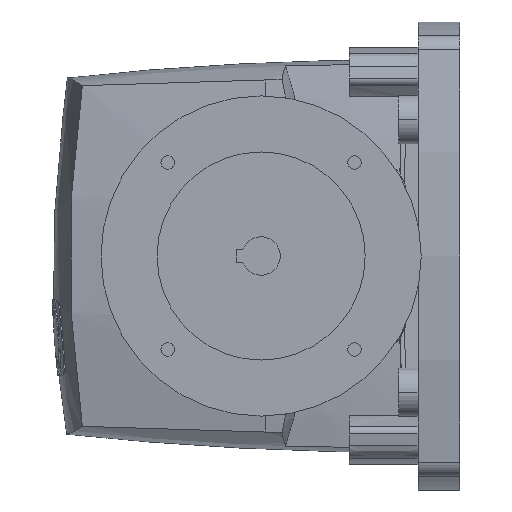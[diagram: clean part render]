
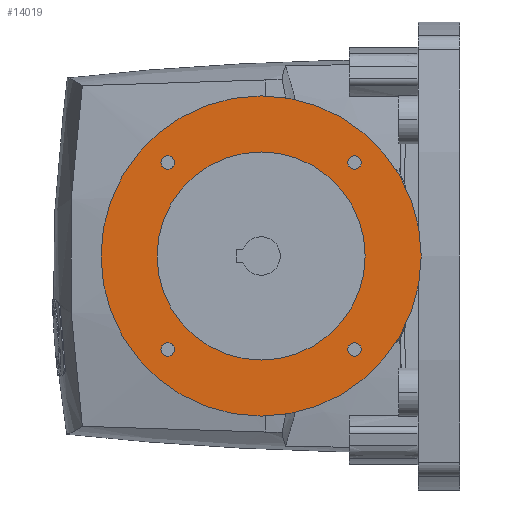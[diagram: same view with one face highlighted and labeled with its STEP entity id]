
A CAD part, left-side view. The second image highlights one B-rep face of the part: STEP entity #14019.
In plain terms, the highlighted planar face has unit normal (-1, 0, 0).
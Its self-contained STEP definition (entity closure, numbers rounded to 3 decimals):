
#4341=CARTESIAN_POINT('',(-168.,124.,0.));
#4342=DIRECTION('',(-1.,0.,0.));
#4343=DIRECTION('',(0.,1.,0.));
#4344=AXIS2_PLACEMENT_3D('',#4341,#4342,#4343);
#4346=CARTESIAN_POINT('',(-168.,124.,0.));
#4347=DIRECTION('',(-1.,0.,0.));
#4348=DIRECTION('',(0.,-1.,0.));
#4349=AXIS2_PLACEMENT_3D('',#4346,#4347,#4348);
#4351=CARTESIAN_POINT('',(-168.,124.,0.));
#4352=DIRECTION('',(-1.,0.,0.));
#4353=DIRECTION('',(0.,-1.,0.));
#4354=AXIS2_PLACEMENT_3D('',#4351,#4352,#4353);
#4356=CARTESIAN_POINT('',(-168.,124.,0.));
#4357=DIRECTION('',(-1.,0.,0.));
#4358=DIRECTION('',(0.,1.,0.));
#4359=AXIS2_PLACEMENT_3D('',#4356,#4357,#4358);
#4361=CARTESIAN_POINT('',(-168.,65.664,58.336));
#4362=DIRECTION('',(-1.,0.,0.));
#4363=DIRECTION('',(0.,-1.,0.));
#4364=AXIS2_PLACEMENT_3D('',#4361,#4362,#4363);
#4366=CARTESIAN_POINT('',(-168.,65.664,58.336));
#4367=DIRECTION('',(-1.,0.,0.));
#4368=DIRECTION('',(0.,1.,0.));
#4369=AXIS2_PLACEMENT_3D('',#4366,#4367,#4368);
#4371=CARTESIAN_POINT('',(-168.,182.336,58.336));
#4372=DIRECTION('',(-1.,0.,0.));
#4373=DIRECTION('',(0.,-1.,0.));
#4374=AXIS2_PLACEMENT_3D('',#4371,#4372,#4373);
#4376=CARTESIAN_POINT('',(-168.,182.336,58.336));
#4377=DIRECTION('',(-1.,0.,0.));
#4378=DIRECTION('',(0.,1.,0.));
#4379=AXIS2_PLACEMENT_3D('',#4376,#4377,#4378);
#4381=CARTESIAN_POINT('',(-168.,182.336,-58.336));
#4382=DIRECTION('',(-1.,0.,0.));
#4383=DIRECTION('',(0.,-1.,0.));
#4384=AXIS2_PLACEMENT_3D('',#4381,#4382,#4383);
#4386=CARTESIAN_POINT('',(-168.,182.336,-58.336));
#4387=DIRECTION('',(-1.,0.,0.));
#4388=DIRECTION('',(0.,1.,0.));
#4389=AXIS2_PLACEMENT_3D('',#4386,#4387,#4388);
#4391=CARTESIAN_POINT('',(-168.,65.664,-58.336));
#4392=DIRECTION('',(-1.,0.,0.));
#4393=DIRECTION('',(0.,-1.,0.));
#4394=AXIS2_PLACEMENT_3D('',#4391,#4392,#4393);
#4396=CARTESIAN_POINT('',(-168.,65.664,-58.336));
#4397=DIRECTION('',(-1.,0.,0.));
#4398=DIRECTION('',(0.,1.,0.));
#4399=AXIS2_PLACEMENT_3D('',#4396,#4397,#4398);
#8557=CARTESIAN_POINT('',(-168.,224.,0.));
#8558=CARTESIAN_POINT('',(-168.,24.,0.));
#8559=VERTEX_POINT('',#8557);
#8560=VERTEX_POINT('',#8558);
#8561=CARTESIAN_POINT('',(-168.,59.,0.));
#8562=CARTESIAN_POINT('',(-168.,189.,0.));
#8563=VERTEX_POINT('',#8561);
#8564=VERTEX_POINT('',#8562);
#8581=CARTESIAN_POINT('',(-168.,61.414,58.336));
#8582=CARTESIAN_POINT('',(-168.,69.914,58.336));
#8583=VERTEX_POINT('',#8581);
#8584=VERTEX_POINT('',#8582);
#8585=CARTESIAN_POINT('',(-168.,178.086,58.336));
#8586=CARTESIAN_POINT('',(-168.,186.586,58.336));
#8587=VERTEX_POINT('',#8585);
#8588=VERTEX_POINT('',#8586);
#8589=CARTESIAN_POINT('',(-168.,178.086,-58.336));
#8590=CARTESIAN_POINT('',(-168.,186.586,-58.336));
#8591=VERTEX_POINT('',#8589);
#8592=VERTEX_POINT('',#8590);
#8593=CARTESIAN_POINT('',(-168.,61.414,-58.336));
#8594=CARTESIAN_POINT('',(-168.,69.914,-58.336));
#8595=VERTEX_POINT('',#8593);
#8596=VERTEX_POINT('',#8594);
#13980=CARTESIAN_POINT('',(-168.,0.,0.));
#13981=DIRECTION('',(-1.,0.,0.));
#13982=DIRECTION('',(0.,-1.,0.));
#13983=AXIS2_PLACEMENT_3D('',#13980,#13981,#13982);
#13984=PLANE('',#13983);
#13985=ORIENTED_EDGE('',*,*,#13960,.F.);
#13986=ORIENTED_EDGE('',*,*,#13974,.F.);
#13987=EDGE_LOOP('',(#13985,#13986));
#13988=FACE_OUTER_BOUND('',#13987,.F.);
#13990=ORIENTED_EDGE('',*,*,#13989,.T.);
#13992=ORIENTED_EDGE('',*,*,#13991,.T.);
#13993=EDGE_LOOP('',(#13990,#13992));
#13994=FACE_BOUND('',#13993,.F.);
#13996=ORIENTED_EDGE('',*,*,#13995,.T.);
#13998=ORIENTED_EDGE('',*,*,#13997,.T.);
#13999=EDGE_LOOP('',(#13996,#13998));
#14000=FACE_BOUND('',#13999,.F.);
#14002=ORIENTED_EDGE('',*,*,#14001,.T.);
#14004=ORIENTED_EDGE('',*,*,#14003,.T.);
#14005=EDGE_LOOP('',(#14002,#14004));
#14006=FACE_BOUND('',#14005,.F.);
#14008=ORIENTED_EDGE('',*,*,#14007,.T.);
#14010=ORIENTED_EDGE('',*,*,#14009,.T.);
#14011=EDGE_LOOP('',(#14008,#14010));
#14012=FACE_BOUND('',#14011,.F.);
#14014=ORIENTED_EDGE('',*,*,#14013,.T.);
#14016=ORIENTED_EDGE('',*,*,#14015,.T.);
#14017=EDGE_LOOP('',(#14014,#14016));
#14018=FACE_BOUND('',#14017,.F.);
#14019=ADVANCED_FACE('',(#13988,#13994,#14000,#14006,#14012,#14018),#13984,.T.);
#4345=CIRCLE('',#4344,100.);
#4350=CIRCLE('',#4349,100.);
#4355=CIRCLE('',#4354,65.);
#4360=CIRCLE('',#4359,65.);
#4365=CIRCLE('',#4364,4.25);
#4370=CIRCLE('',#4369,4.25);
#4375=CIRCLE('',#4374,4.25);
#4380=CIRCLE('',#4379,4.25);
#4385=CIRCLE('',#4384,4.25);
#4390=CIRCLE('',#4389,4.25);
#4395=CIRCLE('',#4394,4.25);
#4400=CIRCLE('',#4399,4.25);
#13960=EDGE_CURVE('',#8559,#8560,#4345,.T.);
#13974=EDGE_CURVE('',#8560,#8559,#4350,.T.);
#13989=EDGE_CURVE('',#8563,#8564,#4355,.T.);
#13991=EDGE_CURVE('',#8564,#8563,#4360,.T.);
#13995=EDGE_CURVE('',#8583,#8584,#4365,.T.);
#13997=EDGE_CURVE('',#8584,#8583,#4370,.T.);
#14001=EDGE_CURVE('',#8587,#8588,#4375,.T.);
#14003=EDGE_CURVE('',#8588,#8587,#4380,.T.);
#14007=EDGE_CURVE('',#8591,#8592,#4385,.T.);
#14009=EDGE_CURVE('',#8592,#8591,#4390,.T.);
#14013=EDGE_CURVE('',#8595,#8596,#4395,.T.);
#14015=EDGE_CURVE('',#8596,#8595,#4400,.T.);
